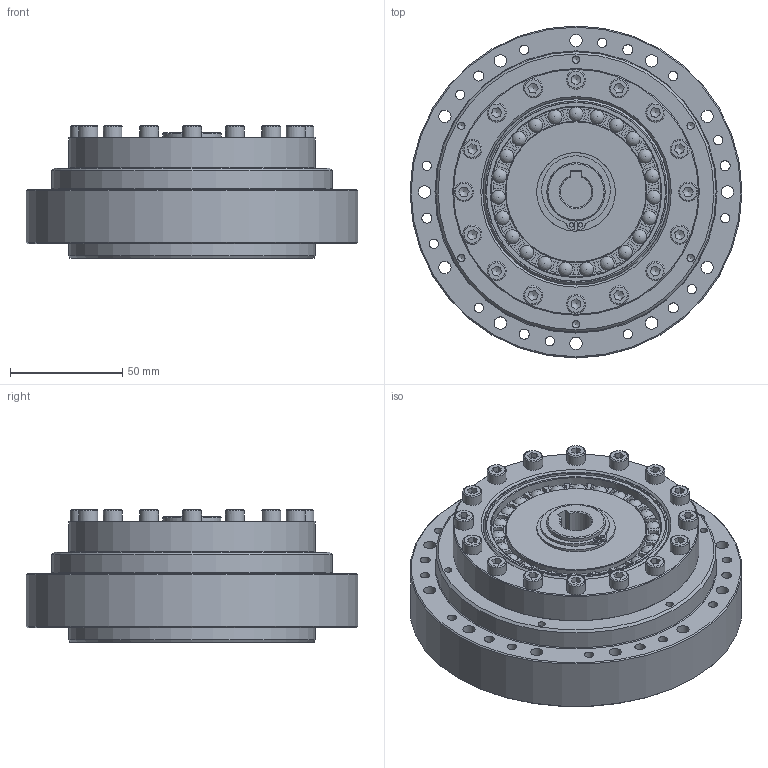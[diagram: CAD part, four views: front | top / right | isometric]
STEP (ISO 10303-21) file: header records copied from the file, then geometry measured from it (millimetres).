
FILE_DESCRIPTION(/* description */ (''),/* implementation_level */ '2;1');
FILE_NAME(/* name */ 'C:\Users\yin210\Desktop\CPU\32\DSC-32-PO-M.stp',/* time_stamp */ '2022-05-17T18:51:21+08:00',/* author */ ('yin210'),/* organization */ (''),/* preprocessor_version */ 'ST-DEVELOPER v15.2',/* originating_system */ 'Autodesk Inventor 2014',/* authorisation */ '');
FILE_SCHEMA (('AUTOMOTIVE_DESIGN { 1 0 10303 214 3 1 1 }'));
Length unit declared in the file: centimetre
Products named in the file (1): DSC-32-PO-M
Bounding box: 148 x 148 x 59 mm (x, y, z)
Volume: 586883 mm3; surface area: 101549.5 mm2
Topology: 2 solids, 5 shells, 585 faces, 1474 edges, 969 vertices
Faces by surface type: plane 246, cylinder 212, cone 76, torus 28, sphere 23
Full cylindrical faces by diameter (mm): 2 x2, 3.242 x6, 4.134 x12, 4.5 x6, 4.917 x12, 5.5 x12, 6.647 x8, 8 x6, 8.5 x16, 13 x8, 20 x1, 24.9 x1, 26 x3, 26.1 x1, 35 x1, 53.5 x1, 54 x1, 63.04 x1, 69 x1, 75.82 x1, 79.73 x1, 80 x1, 110 x2, 125 x1, 148 x1
Entity records: 15342 total; most frequent: CARTESIAN_POINT 2802, DIRECTION 2622, ORIENTED_EDGE 2164, AXIS2_PLACEMENT_3D 1108, EDGE_CURVE 1082, EDGE_LOOP 950, VERTEX_POINT 808, ADVANCED_FACE 585
